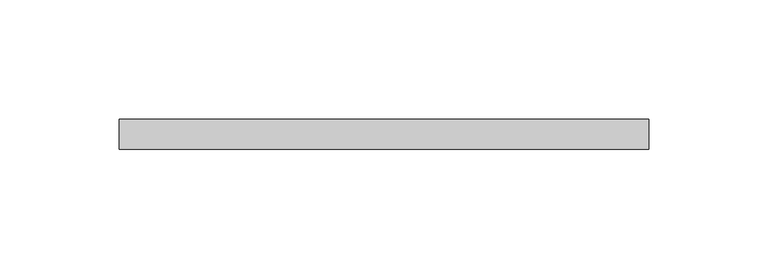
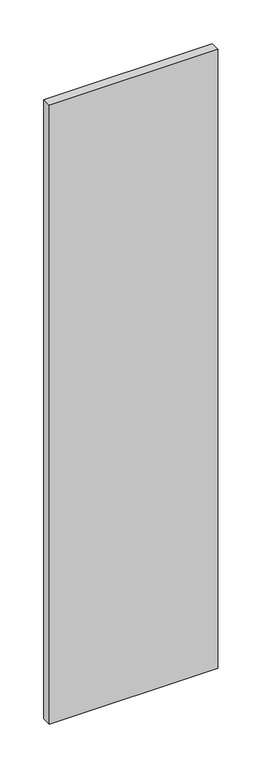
"""IFC4 building model written with IfcOpenShell, lengths in millimetres: proxy geometry, LIVERS_RZR - Glass Panel : LIVERS_RZR - Glass Panel."""

from ifc_helpers import new_model, si_unit, frame, origin, place, context, project, spatial, polyline, outline, extrude, source, transform, mapped, element, save


def building_element_proxy_1f8ac3fc(model_context):
    return source(origin(), model_context, "Body", "SweptSolid", [
        extrude(outline(polyline([(717.6189834, 1.5872342), (495.317627, 1.5872342), (495.317627, 14.2874305), (717.6189834, 14.2874305), (717.6189834, 1.5872342)])), frame((0.0, 0.0, 114.3), z_axis=(0.0, 0.0, 1.0), x_axis=(1.0, 0.0, 0.0)), (0.0, 0.0, 1.0), 863.6),
    ])


if __name__ == "__main__":
    model = new_model("IFC4")
    model_context = context("Model", 3, world=origin())
    ifc_project = project(units=[si_unit("LENGTHUNIT", "METRE", prefix="MILLI")], contexts=[model_context])
    site = spatial("IfcSite", under=ifc_project)
    building = spatial("IfcBuilding", under=site)
    placement = place(None, origin())
    building_element_proxy_shape = building_element_proxy_1f8ac3fc(model_context)
    element("IfcBuildingElementProxy", 1, Name="LIVERS_RZR - Glass Panel : LIVERS_RZR - Glass Panel", ObjectType="LIVERS_RZR - Glass Panel : LIVERS_RZR - Glass Panel", at=placement, inside=building, context=model_context, shape_type="MappedRepresentation", body=[
        mapped(building_element_proxy_shape, transform((0.0, 0.0, 0.0), x_axis=(1.0, 0.0, 0.0), y_axis=(0.0, 1.0, 0.0), z_axis=(0.0, 0.0, 1.0))),
    ])
    save(model, "model.ifc")
